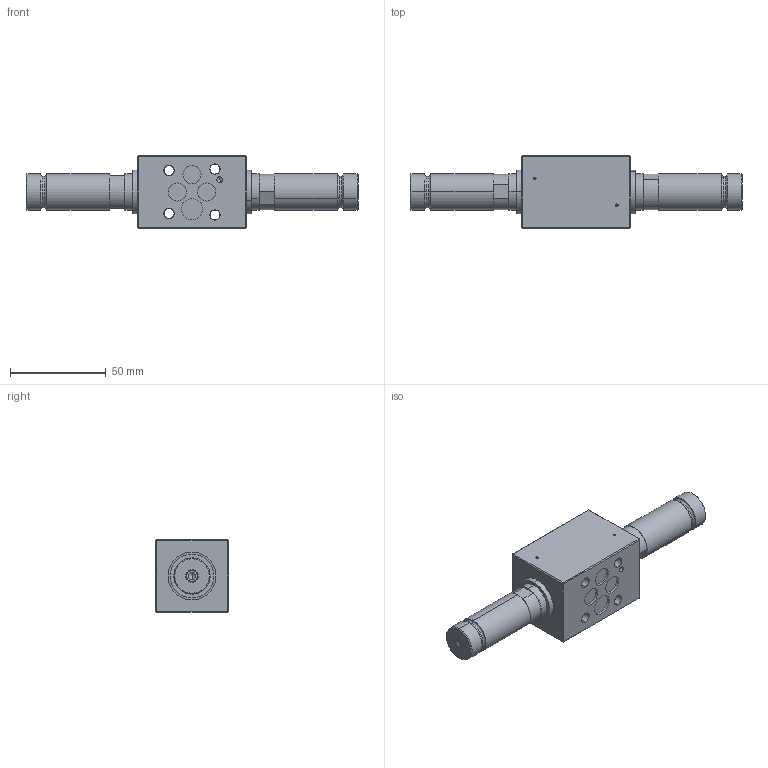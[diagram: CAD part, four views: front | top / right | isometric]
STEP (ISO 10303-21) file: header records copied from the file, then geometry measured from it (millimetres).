
FILE_DESCRIPTION (( 'STEP AP203' ), '1' );
FILE_NAME ('WDEFB04-4_3.step', '2013-07-08T06:41:33', ( 'Wandfluh AG' ), ( 'Wandfluh AG' ), 'SwSTEP 2.0', 'SolidWorks 2012', '' );
FILE_SCHEMA (( 'CONFIG_CONTROL_DESIGN' ));
Length unit declared in the file: millimetre
Products named in the file (1): WDEFB04-4_3
Bounding box: 173.6 x 38 x 38 mm (x, y, z)
Volume: 109623.1 mm3; surface area: 30817.9 mm2
Topology: 9 solids, 9 shells, 1132 faces, 3077 edges, 2003 vertices
Faces by surface type: plane 703, cylinder 312, cone 58, torus 36, bspline 23
Entity records: 36822 total; most frequent: CARTESIAN_POINT 7282, DIRECTION 6381, ORIENTED_EDGE 6134, EDGE_CURVE 3067, AXIS2_PLACEMENT_3D 2242, VERTEX_POINT 2003, LINE 1897, VECTOR 1897
